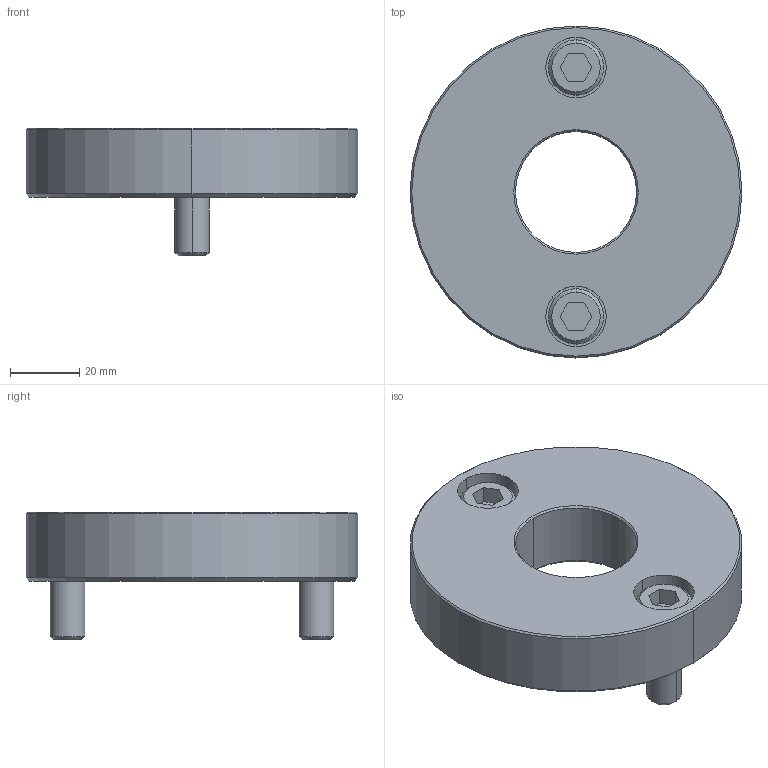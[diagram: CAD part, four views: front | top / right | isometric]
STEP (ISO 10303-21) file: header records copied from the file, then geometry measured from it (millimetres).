
FILE_DESCRIPTION((''),'2;1');
FILE_NAME('','2010-08-30T17:28:30+09:00',('misumi'),(''),'M/STEP i/f 1R2-14','CADmeister v5.1','');
FILE_SCHEMA(('AUTOMOTIVE_DESIGN'));
Length unit declared in the file: millimetre
Products named in the file (1): KEB30-20-R
Bounding box: 96 x 96 x 37 mm (x, y, z)
Volume: 125288.4 mm3; surface area: 25470.4 mm2
Topology: 3 solids, 3 shells, 60 faces, 128 edges, 80 vertices
Faces by surface type: plane 24, cylinder 20, cone 16
Entity records: 1742 total; most frequent: DIRECTION 306, CARTESIAN_POINT 269, ORIENTED_EDGE 256, EDGE_CURVE 128, AXIS2_PLACEMENT_3D 117, VERTEX_POINT 80, LINE 72, VECTOR 72
